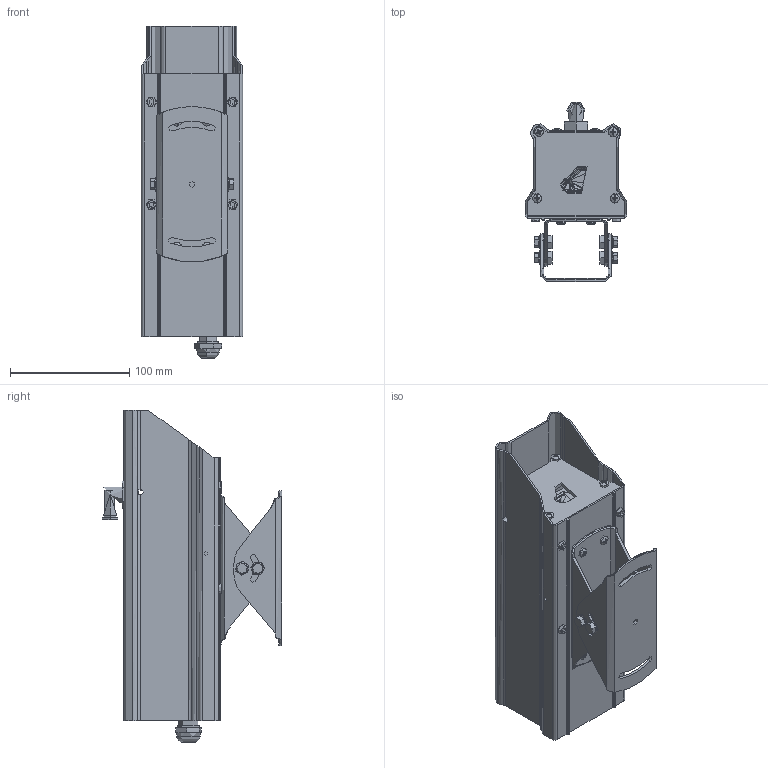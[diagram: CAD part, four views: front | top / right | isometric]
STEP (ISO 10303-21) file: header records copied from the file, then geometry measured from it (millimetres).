
FILE_DESCRIPTION (( 'STEP AP214' ), '1' );
FILE_NAME ('D_Series_air jacket_Std_2021.STEP', '2021-07-01T14:43:10', ( '' ), ( '' ), 'SwSTEP 2.0', 'SolidWorks 2020', '' );
FILE_SCHEMA (( 'AUTOMOTIVE_DESIGN' ));
Length unit declared in the file: millimetre
Products named in the file (16): PT1-8 AIR NIPPLE.STEP_00; 3mm ____ __ _______Main housing.STEP_00; Dimetix_D_Series_air jacket_Std_2021.STEP_00; E_Dimetix_D_Series.STEP_00; -3MM ____ Air guide.STEP_00; 40x25 glass.STEP_00; D_Series_air jacket_Std_2021; 04_Rear cover.STEP_00; tilting base top1.STEP_00; cable grand_M16.STEP_00; tilting base under.STEP_00; hex flange bolt_din_DIN 6921 - M5 x 10 x 10-N; 03_Air guide block.STEP_00; bolt_M4_8.STEP_00; 01_Front cover.STEP_00; pan head cross recess screw_din_DIN EN ISO 7045 - M4 x 10 - Z - 10N
Assembly tree (36 placements, depth 3):
  D_Series_air jacket_Std_2021
    Dimetix_D_Series_air jacket_Std_2021.STEP_00
      3mm ____ __ _______Main housing.STEP_00
      E_Dimetix_D_Series.STEP_00
      03_Air guide block.STEP_00
      01_Front cover.STEP_00
      04_Rear cover.STEP_00
      40x25 glass.STEP_00
      PT1-8 AIR NIPPLE.STEP_00
      tilting base top1.STEP_00
      tilting base under.STEP_00
      cable grand_M16.STEP_00
      -3MM ____ Air guide.STEP_00
      bolt_M4_8.STEP_00  x4
    hex flange bolt_din_DIN 6921 - M5 x 10 x 10-N  x4
    pan head cross recess screw_din_DIN EN ISO 7045 - M4 x 10 - Z - 10N  x16
Bounding box: 85 x 150 x 277.9 mm (x, y, z)
Topology: 34 solids, 96 shells, 4351 faces, 11533 edges, 7275 vertices
Faces by surface type: plane 1594, cylinder 1240, bspline 842, cone 499, torus 120, sphere 56
Entity records: 168389 total; most frequent: CARTESIAN_POINT 96584, ORIENTED_EDGE 18549, EDGE_CURVE 9697, DIRECTION 8264, B_SPLINE_CURVE_WITH_KNOTS 7197, VERTEX_POINT 6229, EDGE_LOOP 3990, AXIS2_PLACEMENT_3D 3627
